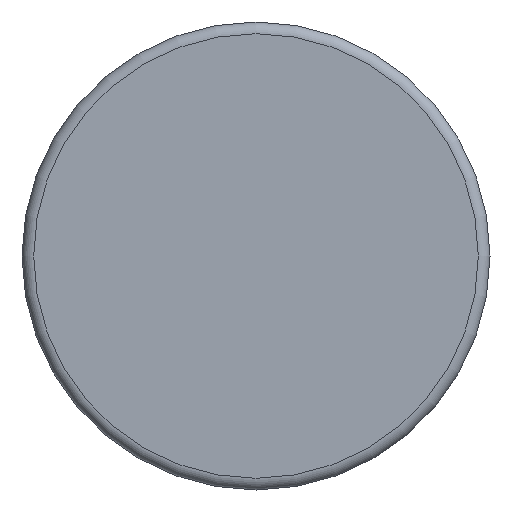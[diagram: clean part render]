
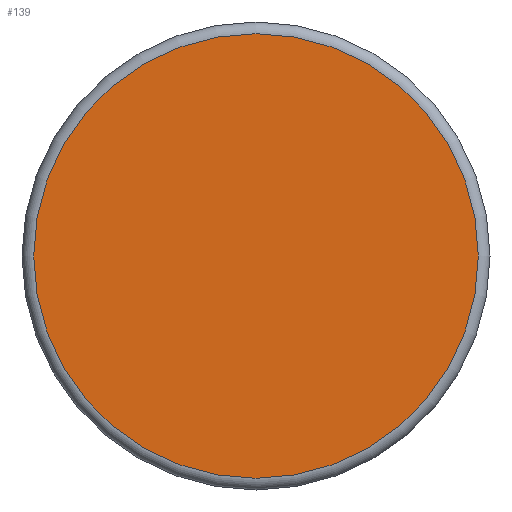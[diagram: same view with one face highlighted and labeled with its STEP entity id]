
A CAD part, front view. The second image highlights one B-rep face of the part: STEP entity #139.
In plain terms, the highlighted planar face has unit normal (0, -1, 0).
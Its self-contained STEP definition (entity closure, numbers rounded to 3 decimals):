
#139 = ADVANCED_FACE( '', ( #283 ), #284, .F. );
#283 = FACE_OUTER_BOUND( '', #465, .T. );
#284 = PLANE( '', #466 );
#465 = EDGE_LOOP( '', ( #644 ) );
#466 = AXIS2_PLACEMENT_3D( '', #645, #646, #647 );
#644 = ORIENTED_EDGE( '', *, *, #1017, .T. );
#645 = CARTESIAN_POINT( '', ( 19., 0., 0. ) );
#646 = DIRECTION( '', ( 0., 1., 0. ) );
#647 = DIRECTION( '', ( 0., 0., 1. ) );
#1017 = EDGE_CURVE( '', #1163, #1163, #1164, .T. );
#1163 = VERTEX_POINT( '', #1381 );
#1164 = CIRCLE( '', #1382, 19. );
#1381 = CARTESIAN_POINT( '', ( 0., 0., -19. ) );
#1382 = AXIS2_PLACEMENT_3D( '', #1821, #1822, #1823 );
#1821 = CARTESIAN_POINT( '', ( 0., 0., 0. ) );
#1822 = DIRECTION( '', ( 0., -1., 0. ) );
#1823 = DIRECTION( '', ( 0., 0., -1. ) );
